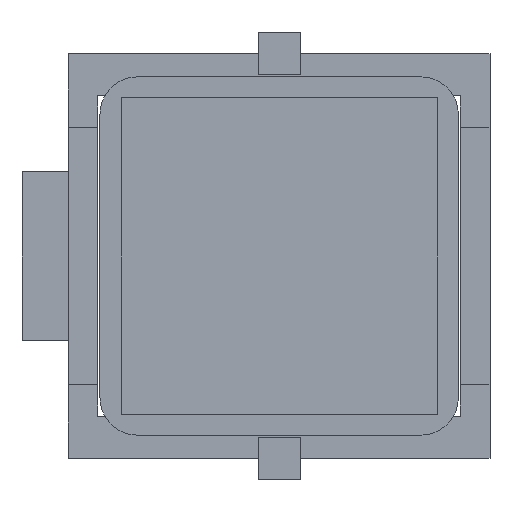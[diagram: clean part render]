
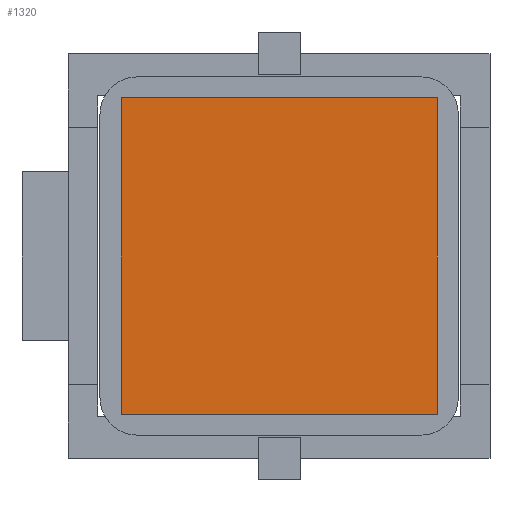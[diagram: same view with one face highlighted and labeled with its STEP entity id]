
A CAD part, front view. The second image highlights one B-rep face of the part: STEP entity #1320.
In plain terms, the highlighted planar face has unit normal (0, -1, 0).
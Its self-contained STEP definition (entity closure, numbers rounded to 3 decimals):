
#94 = ORIENTED_EDGE ( 'NONE', *, *, #2776, .F. ) ;
#176 = PLANE ( 'NONE',  #2317 ) ;
#214 = CARTESIAN_POINT ( 'NONE',  ( -3.413, -13.936, -0.275 ) ) ;
#382 = CARTESIAN_POINT ( 'NONE',  ( -3.413, -13.936, -0.275 ) ) ;
#398 = ORIENTED_EDGE ( 'NONE', *, *, #520, .F. ) ;
#498 = CARTESIAN_POINT ( 'NONE',  ( 11.587, -13.936, -0.275 ) ) ;
#520 = EDGE_CURVE ( 'NONE', #3601, #4171, #3250, .T. ) ;
#943 = VECTOR ( 'NONE', #1078, 1000. ) ;
#1078 = DIRECTION ( 'NONE',  ( -1., 0., 0. ) ) ;
#1201 = VERTEX_POINT ( 'NONE', #498 ) ;
#1234 = DIRECTION ( 'NONE',  ( 0., 0., 1. ) ) ;
#1308 = EDGE_CURVE ( 'NONE', #2574, #3601, #2022, .T. ) ;
#1320 = ADVANCED_FACE ( 'NONE', ( #3403 ), #176, .F. ) ;
#1596 = CARTESIAN_POINT ( 'NONE',  ( -3.413, -13.936, 14.725 ) ) ;
#1760 = VECTOR ( 'NONE', #3160, 1000. ) ;
#2022 = LINE ( 'NONE', #214, #3270 ) ;
#2317 = AXIS2_PLACEMENT_3D ( 'NONE', #1596, #2994, #1234 ) ;
#2434 = CARTESIAN_POINT ( 'NONE',  ( 11.587, -13.936, -0.275 ) ) ;
#2530 = DIRECTION ( 'NONE',  ( 0., 0., -1. ) ) ;
#2574 = VERTEX_POINT ( 'NONE', #3979 ) ;
#2620 = EDGE_LOOP ( 'NONE', ( #3539, #94, #2815, #398 ) ) ;
#2656 = CARTESIAN_POINT ( 'NONE',  ( -3.413, -13.936, 14.725 ) ) ;
#2699 = CARTESIAN_POINT ( 'NONE',  ( 11.587, -13.936, 14.725 ) ) ;
#2776 = EDGE_CURVE ( 'NONE', #1201, #2574, #3542, .T. ) ;
#2778 = LINE ( 'NONE', #2434, #3245 ) ;
#2815 = ORIENTED_EDGE ( 'NONE', *, *, #4004, .F. ) ;
#2994 = DIRECTION ( 'NONE',  ( 0., 1., 0. ) ) ;
#3160 = DIRECTION ( 'NONE',  ( 1., 0., 0. ) ) ;
#3245 = VECTOR ( 'NONE', #2530, 1000. ) ;
#3250 = LINE ( 'NONE', #4278, #1760 ) ;
#3270 = VECTOR ( 'NONE', #4104, 1000. ) ;
#3403 = FACE_OUTER_BOUND ( 'NONE', #2620, .T. ) ;
#3539 = ORIENTED_EDGE ( 'NONE', *, *, #1308, .F. ) ;
#3542 = LINE ( 'NONE', #382, #943 ) ;
#3601 = VERTEX_POINT ( 'NONE', #2656 ) ;
#3979 = CARTESIAN_POINT ( 'NONE',  ( -3.413, -13.936, -0.275 ) ) ;
#4004 = EDGE_CURVE ( 'NONE', #4171, #1201, #2778, .T. ) ;
#4104 = DIRECTION ( 'NONE',  ( 0., 0., 1. ) ) ;
#4171 = VERTEX_POINT ( 'NONE', #2699 ) ;
#4278 = CARTESIAN_POINT ( 'NONE',  ( -3.413, -13.936, 14.725 ) ) ;
